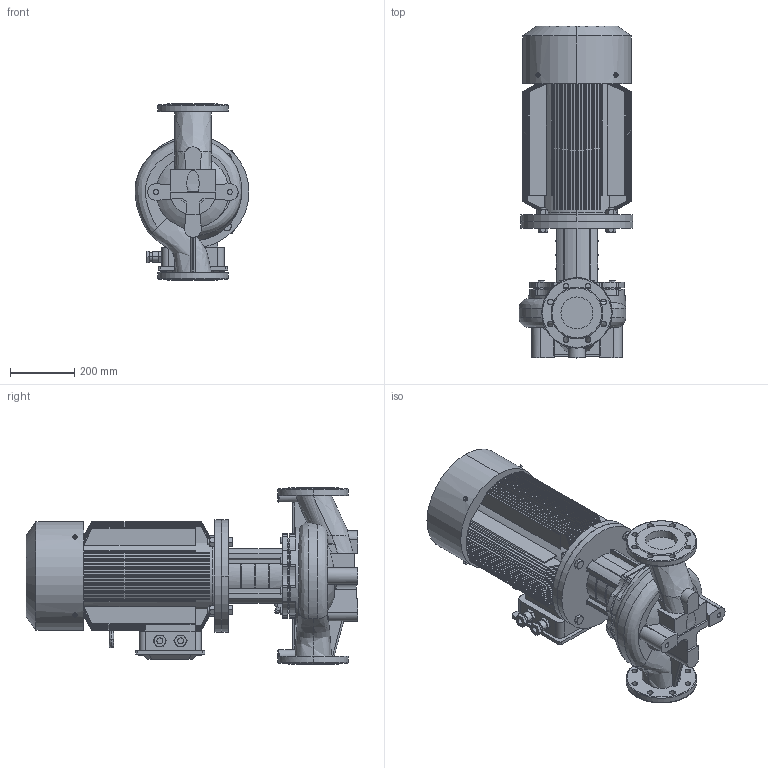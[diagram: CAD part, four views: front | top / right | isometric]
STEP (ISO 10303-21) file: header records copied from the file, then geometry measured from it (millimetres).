
FILE_DESCRIPTION(/* description */ (''),/* implementation_level */ '2;1');
FILE_NAME(/* name */ 'TD100-40-2安装尺寸图.stp',/* time_stamp */ '2026-09-07T16:28:38+08:00',/* author */ (''),/* organization */ (''),/* preprocessor_version */ 'ST-DEVELOPER v16.7',/* originating_system */ 'SIEMENS PLM Software NX 1847',/* authorisation */ '');
FILE_SCHEMA (('AP203_CONFIGURATION_CONTROLLED_3D_DESIGN_OF_MECHANICAL_PARTS_AND_ASSEMBLIES_MIM_LF { 1 0 10303 403 2 1 2}'));
Length unit declared in the file: millimetre
Products named in the file (1): Admi55F8EAC4z3sh
Bounding box: 356 x 1036.5 x 550 mm (x, y, z)
Volume: 69312040.5 mm3; surface area: 4370818.3 mm2
Topology: 1 solids, 8 shells, 1490 faces, 3788 edges, 2378 vertices
Faces by surface type: plane 608, cylinder 402, cone 390, torus 50, bspline 38, sphere 2
Full cylindrical faces by diameter (mm): 8 x1, 10 x1, 11.701 x8, 12.9 x1, 16.63 x8, 17.623 x8, 25.34 x4, 205 x1, 215 x1
Entity records: 52570 total; most frequent: CARTESIAN_POINT 17998, ORIENTED_EDGE 7368, DIRECTION 6938, EDGE_CURVE 3684, AXIS2_PLACEMENT_3D 2796, VERTEX_POINT 2337, EDGE_LOOP 1679, ADVANCED_FACE 1490
